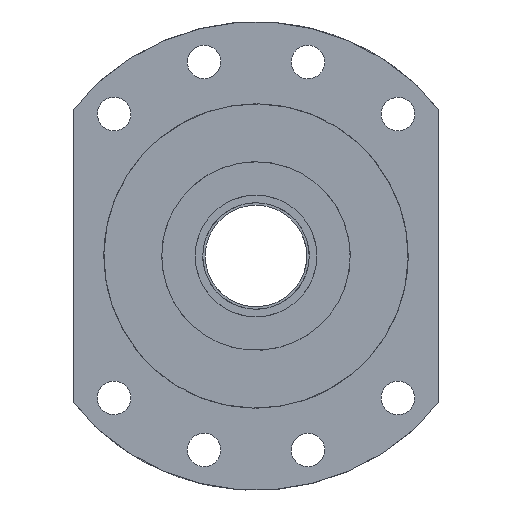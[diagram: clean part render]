
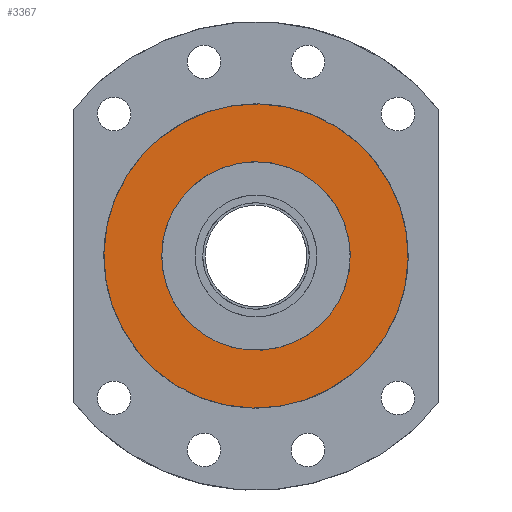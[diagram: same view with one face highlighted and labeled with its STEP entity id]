
A CAD part, left-side view. The second image highlights one B-rep face of the part: STEP entity #3367.
In plain terms, the highlighted planar face has unit normal (-1, 0, 0).
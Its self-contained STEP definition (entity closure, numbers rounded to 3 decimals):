
#3017=CARTESIAN_POINT('Vertex',(-50.,23.971,43.879)) ;
#3024=CARTESIAN_POINT('Vertex',(-50.,-23.971,-43.879)) ;
#3027=CARTESIAN_POINT('Axis2P3D Location',(-50.,0.,0.)) ;
#3044=CARTESIAN_POINT('Axis2P3D Location',(-50.,0.,0.)) ;
#3299=CARTESIAN_POINT('Axis2P3D Location',(-50.,0.,0.)) ;
#3303=CARTESIAN_POINT('Vertex',(-50.,27.205,14.862)) ;
#3305=CARTESIAN_POINT('Vertex',(-50.,-27.205,-14.862)) ;
#3331=CARTESIAN_POINT('Control Point',(-50.,-27.205,-14.862)) ;
#3332=CARTESIAN_POINT('Control Point',(-50.,-24.871,-19.136)) ;
#3333=CARTESIAN_POINT('Control Point',(-50.,-21.697,-22.951)) ;
#3334=CARTESIAN_POINT('Control Point',(-50.,-17.804,-26.087)) ;
#3335=CARTESIAN_POINT('Control Point',(-50.,-8.997,-30.663)) ;
#3336=CARTESIAN_POINT('Control Point',(-50.,0.886,-31.57)) ;
#3337=CARTESIAN_POINT('Control Point',(-50.,5.857,-31.035)) ;
#3338=CARTESIAN_POINT('Control Point',(-50.,15.321,-28.044)) ;
#3339=CARTESIAN_POINT('Control Point',(-50.,22.951,-21.697)) ;
#3340=CARTESIAN_POINT('Control Point',(-50.,26.087,-17.804)) ;
#3341=CARTESIAN_POINT('Control Point',(-50.,30.663,-8.997)) ;
#3342=CARTESIAN_POINT('Control Point',(-50.,31.57,0.886)) ;
#3343=CARTESIAN_POINT('Control Point',(-50.,31.035,5.857)) ;
#3344=CARTESIAN_POINT('Control Point',(-50.,29.54,10.589)) ;
#3345=CARTESIAN_POINT('Control Point',(-50.,27.205,14.862)) ;
#3354=CARTESIAN_POINT('Axis2P3D Location',(-50.,0.,0.)) ;
#3028=DIRECTION('Axis2P3D Direction',(-1.,0.,0.)) ;
#3045=DIRECTION('Axis2P3D Direction',(-1.,0.,0.)) ;
#3300=DIRECTION('Axis2P3D Direction',(1.,-0.,0.)) ;
#3355=DIRECTION('Axis2P3D Direction',(1.,0.,0.)) ;
#3356=DIRECTION('Axis2P3D XDirection',(0.,1.,0.)) ;
#3029=AXIS2_PLACEMENT_3D('Circle Axis2P3D',#3027,#3028,$) ;
#3046=AXIS2_PLACEMENT_3D('Circle Axis2P3D',#3044,#3045,$) ;
#3301=AXIS2_PLACEMENT_3D('Circle Axis2P3D',#3299,#3300,$) ;
#3357=AXIS2_PLACEMENT_3D('Plane Axis2P3D',#3354,#3355,#3356) ;
#3360=ORIENTED_EDGE('',*,*,#3031,.F.) ;
#3361=ORIENTED_EDGE('',*,*,#3048,.F.) ;
#3364=ORIENTED_EDGE('',*,*,#3346,.T.) ;
#3365=ORIENTED_EDGE('',*,*,#3307,.T.) ;
#3366=FACE_BOUND('',#3363,.T.) ;
#3367=ADVANCED_FACE('FK35(H)',(#3362,#3366),#3358,.F.) ;
#3330=B_SPLINE_CURVE_WITH_KNOTS('',5,(#3331,#3332,#3333,#3334,#3335,#3336,#3337,#3338,#3339,#3340,#3341,#3342,#3343,#3344,#3345),.UNSPECIFIED.,.F.,.U.,(6,3,3,3,6),(-48.695,-24.347,0.,24.347,48.695),.UNSPECIFIED.) ;
#3030=CIRCLE('generated circle',#3029,50.) ;
#3047=CIRCLE('generated circle',#3046,50.) ;
#3302=CIRCLE('generated circle',#3301,31.) ;
#3031=EDGE_CURVE('',#3025,#3018,#3030,.F.) ;
#3048=EDGE_CURVE('',#3018,#3025,#3047,.F.) ;
#3307=EDGE_CURVE('',#3304,#3306,#3302,.T.) ;
#3346=EDGE_CURVE('',#3306,#3304,#3330,.T.) ;
#3359=EDGE_LOOP('',(#3360,#3361)) ;
#3363=EDGE_LOOP('',(#3364,#3365)) ;
#3362=FACE_OUTER_BOUND('',#3359,.T.) ;
#3358=PLANE('Plane',#3357) ;
#3018=VERTEX_POINT('',#3017) ;
#3025=VERTEX_POINT('',#3024) ;
#3304=VERTEX_POINT('',#3303) ;
#3306=VERTEX_POINT('',#3305) ;
